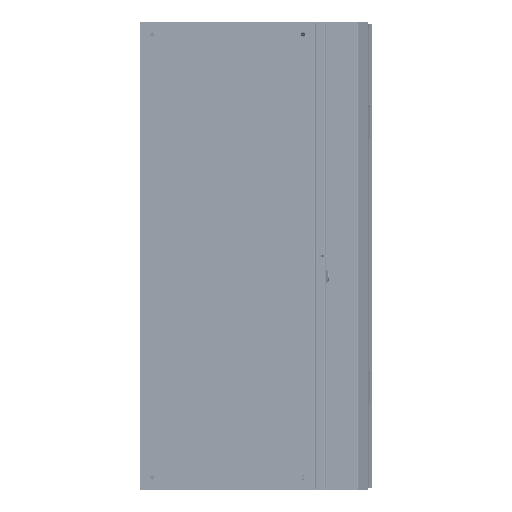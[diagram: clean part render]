
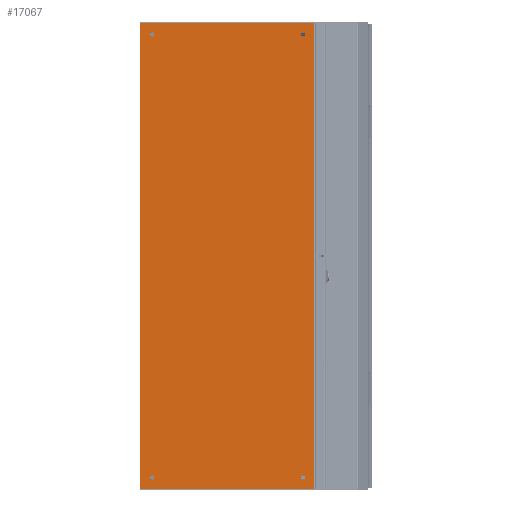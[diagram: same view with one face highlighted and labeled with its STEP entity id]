
A CAD part, left-side view. The second image highlights one B-rep face of the part: STEP entity #17067.
In plain terms, the highlighted planar face has unit normal (-1, 0, 0) as drawn and (0, -1, 0) by its records, which use the part's own axes.
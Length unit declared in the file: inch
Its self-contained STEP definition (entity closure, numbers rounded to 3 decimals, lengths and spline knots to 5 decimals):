
#15332=DIRECTION('',(1.,0.,0.));
#15333=VECTOR('',#15332,49.1);
#15334=CARTESIAN_POINT('',(-24.55,-0.075,9.119));
#15335=LINE('',#15334,#15333);
#15806=CARTESIAN_POINT('',(23.3125,-0.075,-7.9235));
#15807=DIRECTION('',(0.,-1.,0.));
#15808=DIRECTION('',(-1.,0.,0.));
#15809=AXIS2_PLACEMENT_3D('',#15806,#15807,#15808);
#15814=CARTESIAN_POINT('',(23.3125,-0.075,-7.9235));
#15815=DIRECTION('',(0.,-1.,0.));
#15816=DIRECTION('',(1.,0.,0.));
#15817=AXIS2_PLACEMENT_3D('',#15814,#15815,#15816);
#15822=CARTESIAN_POINT('',(23.3125,-0.075,7.9515));
#15823=DIRECTION('',(0.,-1.,0.));
#15824=DIRECTION('',(-1.,0.,0.));
#15825=AXIS2_PLACEMENT_3D('',#15822,#15823,#15824);
#15830=CARTESIAN_POINT('',(23.3125,-0.075,7.9515));
#15831=DIRECTION('',(0.,-1.,0.));
#15832=DIRECTION('',(1.,0.,0.));
#15833=AXIS2_PLACEMENT_3D('',#15830,#15831,#15832);
#15838=CARTESIAN_POINT('',(-23.3125,-0.075,-7.9235));
#15839=DIRECTION('',(0.,-1.,0.));
#15840=DIRECTION('',(-1.,0.,0.));
#15841=AXIS2_PLACEMENT_3D('',#15838,#15839,#15840);
#15846=CARTESIAN_POINT('',(-23.3125,-0.075,-7.9235));
#15847=DIRECTION('',(0.,-1.,0.));
#15848=DIRECTION('',(1.,0.,0.));
#15849=AXIS2_PLACEMENT_3D('',#15846,#15847,#15848);
#15854=CARTESIAN_POINT('',(-23.3125,-0.075,7.9515));
#15855=DIRECTION('',(0.,-1.,0.));
#15856=DIRECTION('',(-1.,0.,0.));
#15857=AXIS2_PLACEMENT_3D('',#15854,#15855,#15856);
#15862=CARTESIAN_POINT('',(-23.3125,-0.075,7.9515));
#15863=DIRECTION('',(0.,-1.,0.));
#15864=DIRECTION('',(1.,0.,0.));
#15865=AXIS2_PLACEMENT_3D('',#15862,#15863,#15864);
#15870=CARTESIAN_POINT('',(-24.49,-0.075,-9.1385));
#15871=DIRECTION('',(0.,-1.,0.));
#15872=DIRECTION('',(-1.,0.,0.));
#15873=AXIS2_PLACEMENT_3D('',#15870,#15871,#15872);
#15878=CARTESIAN_POINT('',(24.49,-0.075,-9.1385));
#15879=DIRECTION('',(0.,-1.,0.));
#15880=DIRECTION('',(0.,0.,-1.));
#15881=AXIS2_PLACEMENT_3D('',#15878,#15879,#15880);
#15886=DIRECTION('',(1.,0.,0.));
#15887=VECTOR('',#15886,48.98);
#15888=CARTESIAN_POINT('',(-24.49,-0.075,-9.1985));
#15889=LINE('',#15888,#15887);
#16057=DIRECTION('',(0.,0.,-1.));
#16058=VECTOR('',#16057,18.2575);
#16059=CARTESIAN_POINT('',(-24.55,-0.075,9.119));
#16060=LINE('',#16059,#16058);
#16085=DIRECTION('',(0.,0.,1.));
#16086=VECTOR('',#16085,18.2575);
#16087=CARTESIAN_POINT('',(24.55,-0.075,-9.1385));
#16088=LINE('',#16087,#16086);
#16107=CARTESIAN_POINT('',(-24.55,-0.075,9.119));
#16109=VERTEX_POINT('',#16107);
#16111=CARTESIAN_POINT('',(24.55,-0.075,9.119));
#16113=VERTEX_POINT('',#16111);
#16151=CARTESIAN_POINT('',(-23.53125,-0.075,7.9515));
#16152=CARTESIAN_POINT('',(-23.09375,-0.075,7.9515));
#16153=VERTEX_POINT('',#16151);
#16154=VERTEX_POINT('',#16152);
#16155=CARTESIAN_POINT('',(-23.53125,-0.075,-7.9235));
#16156=CARTESIAN_POINT('',(-23.09375,-0.075,-7.9235));
#16157=VERTEX_POINT('',#16155);
#16158=VERTEX_POINT('',#16156);
#16159=CARTESIAN_POINT('',(23.09375,-0.075,7.9515));
#16160=CARTESIAN_POINT('',(23.53125,-0.075,7.9515));
#16161=VERTEX_POINT('',#16159);
#16162=VERTEX_POINT('',#16160);
#16163=CARTESIAN_POINT('',(23.09375,-0.075,-7.9235));
#16164=CARTESIAN_POINT('',(23.53125,-0.075,-7.9235));
#16165=VERTEX_POINT('',#16163);
#16166=VERTEX_POINT('',#16164);
#16171=CARTESIAN_POINT('',(-24.55,-0.075,-9.1385));
#16172=VERTEX_POINT('',#16171);
#16173=CARTESIAN_POINT('',(-24.49,-0.075,-9.1985));
#16174=VERTEX_POINT('',#16173);
#16179=CARTESIAN_POINT('',(24.49,-0.075,-9.1985));
#16180=VERTEX_POINT('',#16179);
#16181=CARTESIAN_POINT('',(24.55,-0.075,-9.1385));
#16182=VERTEX_POINT('',#16181);
#17025=CARTESIAN_POINT('',(-24.55,-0.075,-9.119));
#17026=DIRECTION('',(0.,1.,0.));
#17027=DIRECTION('',(0.,0.,1.));
#17028=AXIS2_PLACEMENT_3D('',#17025,#17026,#17027);
#17029=PLANE('',#17028);
#17031=ORIENTED_EDGE('',*,*,#17030,.F.);
#17033=ORIENTED_EDGE('',*,*,#17032,.F.);
#17034=ORIENTED_EDGE('',*,*,#16429,.T.);
#17036=ORIENTED_EDGE('',*,*,#17035,.F.);
#17038=ORIENTED_EDGE('',*,*,#17037,.F.);
#17040=ORIENTED_EDGE('',*,*,#17039,.F.);
#17041=EDGE_LOOP('',(#17031,#17033,#17034,#17036,#17038,#17040));
#17042=FACE_OUTER_BOUND('',#17041,.F.);
#17044=ORIENTED_EDGE('',*,*,#17043,.T.);
#17046=ORIENTED_EDGE('',*,*,#17045,.T.);
#17047=EDGE_LOOP('',(#17044,#17046));
#17048=FACE_BOUND('',#17047,.F.);
#17050=ORIENTED_EDGE('',*,*,#17049,.T.);
#17052=ORIENTED_EDGE('',*,*,#17051,.T.);
#17053=EDGE_LOOP('',(#17050,#17052));
#17054=FACE_BOUND('',#17053,.F.);
#17056=ORIENTED_EDGE('',*,*,#17055,.T.);
#17058=ORIENTED_EDGE('',*,*,#17057,.T.);
#17059=EDGE_LOOP('',(#17056,#17058));
#17060=FACE_BOUND('',#17059,.F.);
#17062=ORIENTED_EDGE('',*,*,#17061,.T.);
#17064=ORIENTED_EDGE('',*,*,#17063,.T.);
#17065=EDGE_LOOP('',(#17062,#17064));
#17066=FACE_BOUND('',#17065,.F.);
#15810=CIRCLE('',#15809,0.21875);
#15818=CIRCLE('',#15817,0.21875);
#15826=CIRCLE('',#15825,0.21875);
#15834=CIRCLE('',#15833,0.21875);
#15842=CIRCLE('',#15841,0.21875);
#15850=CIRCLE('',#15849,0.21875);
#15858=CIRCLE('',#15857,0.21875);
#15866=CIRCLE('',#15865,0.21875);
#15874=CIRCLE('',#15873,0.06);
#15882=CIRCLE('',#15881,0.06);
#16429=EDGE_CURVE('',#16109,#16113,#15335,.T.);
#17030=EDGE_CURVE('',#16172,#16174,#15874,.T.);
#17032=EDGE_CURVE('',#16109,#16172,#16060,.T.);
#17035=EDGE_CURVE('',#16182,#16113,#16088,.T.);
#17037=EDGE_CURVE('',#16180,#16182,#15882,.T.);
#17039=EDGE_CURVE('',#16174,#16180,#15889,.T.);
#17043=EDGE_CURVE('',#16161,#16162,#15826,.T.);
#17045=EDGE_CURVE('',#16162,#16161,#15834,.T.);
#17049=EDGE_CURVE('',#16157,#16158,#15842,.T.);
#17051=EDGE_CURVE('',#16158,#16157,#15850,.T.);
#17055=EDGE_CURVE('',#16153,#16154,#15858,.T.);
#17057=EDGE_CURVE('',#16154,#16153,#15866,.T.);
#17061=EDGE_CURVE('',#16165,#16166,#15810,.T.);
#17063=EDGE_CURVE('',#16166,#16165,#15818,.T.);
#17067=ADVANCED_FACE('',(#17042,#17048,#17054,#17060,#17066),#17029,.F.);
